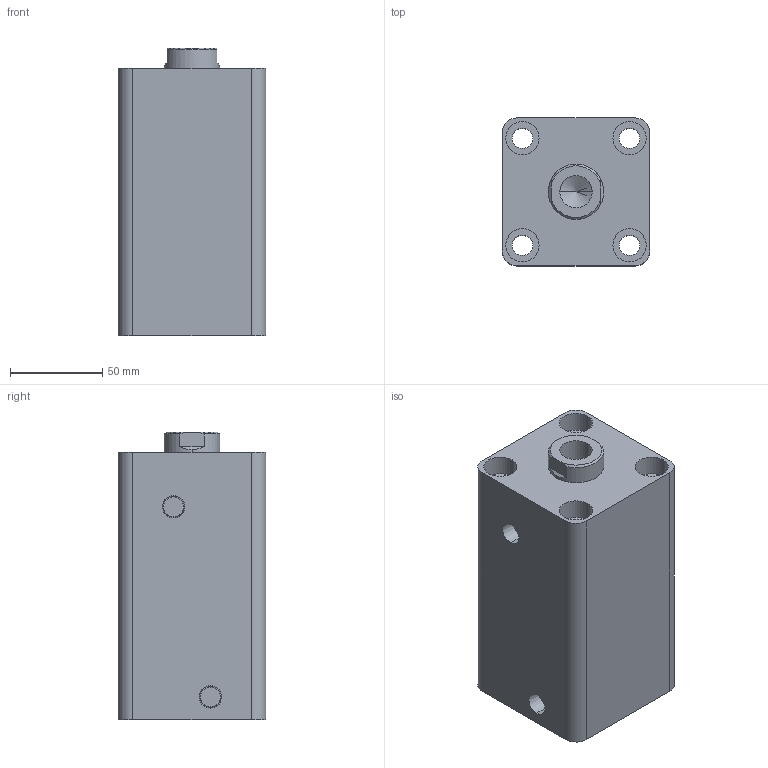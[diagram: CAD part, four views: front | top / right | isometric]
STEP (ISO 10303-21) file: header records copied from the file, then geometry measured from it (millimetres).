
FILE_DESCRIPTION (( 'STEP AP203' ), '1' );
FILE_NAME ('HTB-SD50-85N.STEP', '2019-10-07T07:15:09', ( '微软用户' ), ( '微软中国' ), 'SwSTEP 2.0', 'SolidWorks 2012', '' );
FILE_SCHEMA (( 'CONFIG_CONTROL_DESIGN' ));
Length unit declared in the file: millimetre
Products named in the file (3): HTB-SD50-85N; HTB-SD50-85N活塞杆; HTB-SD50-85掛极
Assembly tree (2 placements, depth 2):
  HTB-SD50-85N
    HTB-SD50-85掛极
    HTB-SD50-85N活塞杆
Bounding box: 80 x 80 x 156 mm (x, y, z)
Volume: 742749.6 mm3; surface area: 121122 mm2
Topology: 2 solids, 2 shells, 83 faces, 184 edges, 119 vertices
Faces by surface type: cylinder 42, plane 27, cone 8, torus 6
Entity records: 2655 total; most frequent: DIRECTION 456, CARTESIAN_POINT 417, ORIENTED_EDGE 364, AXIS2_PLACEMENT_3D 194, EDGE_CURVE 182, VERTEX_POINT 119, EDGE_LOOP 107, CIRCLE 106
